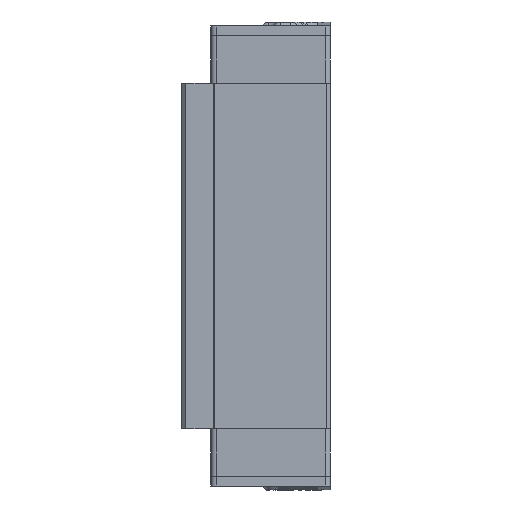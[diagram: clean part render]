
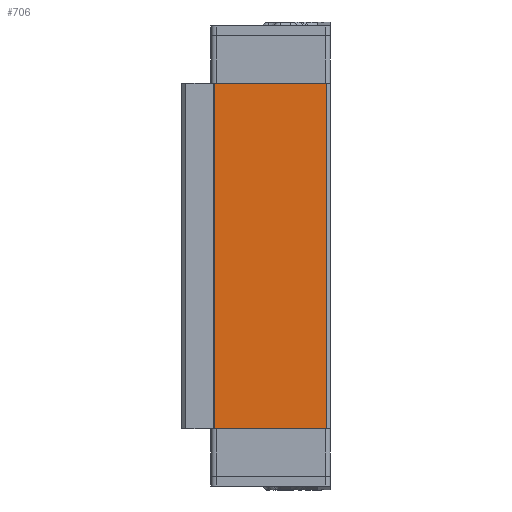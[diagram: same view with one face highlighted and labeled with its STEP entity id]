
A CAD part, left-side view. The second image highlights one B-rep face of the part: STEP entity #706.
In plain terms, the highlighted planar face has unit normal (-1, 0, 0).
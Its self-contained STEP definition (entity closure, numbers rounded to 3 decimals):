
#461 = PLANE('',#462);
#462 = AXIS2_PLACEMENT_3D('',#463,#464,#465);
#463 = CARTESIAN_POINT('',(0.101,4.297,0.));
#464 = DIRECTION('',(0.,0.,1.));
#465 = DIRECTION('',(1.,0.,-0.));
#517 = PLANE('',#518);
#518 = AXIS2_PLACEMENT_3D('',#519,#520,#521);
#519 = CARTESIAN_POINT('',(0.101,4.297,129.8));
#520 = DIRECTION('',(0.,0.,1.));
#521 = DIRECTION('',(1.,0.,-0.));
#619 = PLANE('',#620);
#620 = AXIS2_PLACEMENT_3D('',#621,#622,#623);
#621 = CARTESIAN_POINT('',(-42.5,-22.4,0.));
#622 = DIRECTION('',(-0.707,-0.707,0.));
#623 = DIRECTION('',(0.707,-0.707,0.));
#635 = VERTEX_POINT('',#636);
#636 = CARTESIAN_POINT('',(-42.5,-22.4,0.));
#659 = VERTEX_POINT('',#660);
#660 = CARTESIAN_POINT('',(-42.5,-22.4,129.8));
#681 = EDGE_CURVE('',#635,#659,#682,.T.);
#682 = SURFACE_CURVE('',#683,(#687,#694),.PCURVE_S1.);
#683 = LINE('',#684,#685);
#684 = CARTESIAN_POINT('',(-42.5,-22.4,0.));
#685 = VECTOR('',#686,1.);
#686 = DIRECTION('',(0.,0.,1.));
#687 = PCURVE('',#619,#688);
#688 = DEFINITIONAL_REPRESENTATION('',(#689),#693);
#689 = LINE('',#690,#691);
#690 = CARTESIAN_POINT('',(0.,0.));
#691 = VECTOR('',#692,1.);
#692 = DIRECTION('',(0.,1.));
#693 = ( GEOMETRIC_REPRESENTATION_CONTEXT(2) 
PARAMETRIC_REPRESENTATION_CONTEXT() REPRESENTATION_CONTEXT('2D SPACE',''
  ) );
#694 = PCURVE('',#695,#700);
#695 = PLANE('',#696);
#696 = AXIS2_PLACEMENT_3D('',#697,#698,#699);
#697 = CARTESIAN_POINT('',(-42.5,19.5,0.));
#698 = DIRECTION('',(-1.,0.,0.));
#699 = DIRECTION('',(0.,-1.,0.));
#700 = DEFINITIONAL_REPRESENTATION('',(#701),#705);
#701 = LINE('',#702,#703);
#702 = CARTESIAN_POINT('',(41.9,0.));
#703 = VECTOR('',#704,1.);
#704 = DIRECTION('',(0.,1.));
#705 = ( GEOMETRIC_REPRESENTATION_CONTEXT(2) 
PARAMETRIC_REPRESENTATION_CONTEXT() REPRESENTATION_CONTEXT('2D SPACE',''
  ) );
#706 = ADVANCED_FACE('',(#707),#695,.T.);
#707 = FACE_BOUND('',#708,.T.);
#708 = EDGE_LOOP('',(#709,#732,#733,#756));
#709 = ORIENTED_EDGE('',*,*,#710,.T.);
#710 = EDGE_CURVE('',#711,#635,#713,.T.);
#711 = VERTEX_POINT('',#712);
#712 = CARTESIAN_POINT('',(-42.5,19.5,0.));
#713 = SURFACE_CURVE('',#714,(#718,#725),.PCURVE_S1.);
#714 = B_SPLINE_CURVE_WITH_KNOTS('',2,(#715,#716,#717),.UNSPECIFIED.,.F.
  ,.F.,(3,3),(33.046,34.046),
  .PIECEWISE_BEZIER_KNOTS.);
#715 = CARTESIAN_POINT('',(-42.5,19.5,0.));
#716 = CARTESIAN_POINT('',(-42.5,-1.45,0.));
#717 = CARTESIAN_POINT('',(-42.5,-22.4,0.));
#718 = PCURVE('',#695,#719);
#719 = DEFINITIONAL_REPRESENTATION('',(#720),#724);
#720 = B_SPLINE_CURVE_WITH_KNOTS('',2,(#721,#722,#723),.UNSPECIFIED.,.F.
  ,.F.,(3,3),(33.046,34.046),
  .PIECEWISE_BEZIER_KNOTS.);
#721 = CARTESIAN_POINT('',(0.,0.));
#722 = CARTESIAN_POINT('',(20.95,0.));
#723 = CARTESIAN_POINT('',(41.9,0.));
#724 = ( GEOMETRIC_REPRESENTATION_CONTEXT(2) 
PARAMETRIC_REPRESENTATION_CONTEXT() REPRESENTATION_CONTEXT('2D SPACE',''
  ) );
#725 = PCURVE('',#461,#726);
#726 = DEFINITIONAL_REPRESENTATION('',(#727),#731);
#727 = B_SPLINE_CURVE_WITH_KNOTS('',2,(#728,#729,#730),.UNSPECIFIED.,.F.
  ,.F.,(3,3),(33.046,34.046),
  .PIECEWISE_BEZIER_KNOTS.);
#728 = CARTESIAN_POINT('',(-42.601,15.203));
#729 = CARTESIAN_POINT('',(-42.601,-5.747));
#730 = CARTESIAN_POINT('',(-42.601,-26.697));
#731 = ( GEOMETRIC_REPRESENTATION_CONTEXT(2) 
PARAMETRIC_REPRESENTATION_CONTEXT() REPRESENTATION_CONTEXT('2D SPACE',''
  ) );
#732 = ORIENTED_EDGE('',*,*,#681,.T.);
#733 = ORIENTED_EDGE('',*,*,#734,.F.);
#734 = EDGE_CURVE('',#735,#659,#737,.T.);
#735 = VERTEX_POINT('',#736);
#736 = CARTESIAN_POINT('',(-42.5,19.5,129.8));
#737 = SURFACE_CURVE('',#738,(#742,#749),.PCURVE_S1.);
#738 = B_SPLINE_CURVE_WITH_KNOTS('',2,(#739,#740,#741),.UNSPECIFIED.,.F.
  ,.F.,(3,3),(33.046,34.046),
  .PIECEWISE_BEZIER_KNOTS.);
#739 = CARTESIAN_POINT('',(-42.5,19.5,129.8));
#740 = CARTESIAN_POINT('',(-42.5,-1.45,129.8));
#741 = CARTESIAN_POINT('',(-42.5,-22.4,129.8));
#742 = PCURVE('',#695,#743);
#743 = DEFINITIONAL_REPRESENTATION('',(#744),#748);
#744 = B_SPLINE_CURVE_WITH_KNOTS('',2,(#745,#746,#747),.UNSPECIFIED.,.F.
  ,.F.,(3,3),(33.046,34.046),
  .PIECEWISE_BEZIER_KNOTS.);
#745 = CARTESIAN_POINT('',(0.,129.8));
#746 = CARTESIAN_POINT('',(20.95,129.8));
#747 = CARTESIAN_POINT('',(41.9,129.8));
#748 = ( GEOMETRIC_REPRESENTATION_CONTEXT(2) 
PARAMETRIC_REPRESENTATION_CONTEXT() REPRESENTATION_CONTEXT('2D SPACE',''
  ) );
#749 = PCURVE('',#517,#750);
#750 = DEFINITIONAL_REPRESENTATION('',(#751),#755);
#751 = B_SPLINE_CURVE_WITH_KNOTS('',2,(#752,#753,#754),.UNSPECIFIED.,.F.
  ,.F.,(3,3),(33.046,34.046),
  .PIECEWISE_BEZIER_KNOTS.);
#752 = CARTESIAN_POINT('',(-42.601,15.203));
#753 = CARTESIAN_POINT('',(-42.601,-5.747));
#754 = CARTESIAN_POINT('',(-42.601,-26.697));
#755 = ( GEOMETRIC_REPRESENTATION_CONTEXT(2) 
PARAMETRIC_REPRESENTATION_CONTEXT() REPRESENTATION_CONTEXT('2D SPACE',''
  ) );
#756 = ORIENTED_EDGE('',*,*,#757,.F.);
#757 = EDGE_CURVE('',#711,#735,#758,.T.);
#758 = SURFACE_CURVE('',#759,(#763,#770),.PCURVE_S1.);
#759 = LINE('',#760,#761);
#760 = CARTESIAN_POINT('',(-42.5,19.5,0.));
#761 = VECTOR('',#762,1.);
#762 = DIRECTION('',(0.,0.,1.));
#763 = PCURVE('',#695,#764);
#764 = DEFINITIONAL_REPRESENTATION('',(#765),#769);
#765 = LINE('',#766,#767);
#766 = CARTESIAN_POINT('',(0.,0.));
#767 = VECTOR('',#768,1.);
#768 = DIRECTION('',(0.,1.));
#769 = ( GEOMETRIC_REPRESENTATION_CONTEXT(2) 
PARAMETRIC_REPRESENTATION_CONTEXT() REPRESENTATION_CONTEXT('2D SPACE',''
  ) );
#770 = PCURVE('',#771,#776);
#771 = PLANE('',#772);
#772 = AXIS2_PLACEMENT_3D('',#773,#774,#775);
#773 = CARTESIAN_POINT('',(-43.,20.,0.));
#774 = DIRECTION('',(-0.707,-0.707,0.));
#775 = DIRECTION('',(0.707,-0.707,0.));
#776 = DEFINITIONAL_REPRESENTATION('',(#777),#781);
#777 = LINE('',#778,#779);
#778 = CARTESIAN_POINT('',(0.707,0.));
#779 = VECTOR('',#780,1.);
#780 = DIRECTION('',(0.,1.));
#781 = ( GEOMETRIC_REPRESENTATION_CONTEXT(2) 
PARAMETRIC_REPRESENTATION_CONTEXT() REPRESENTATION_CONTEXT('2D SPACE',''
  ) );
